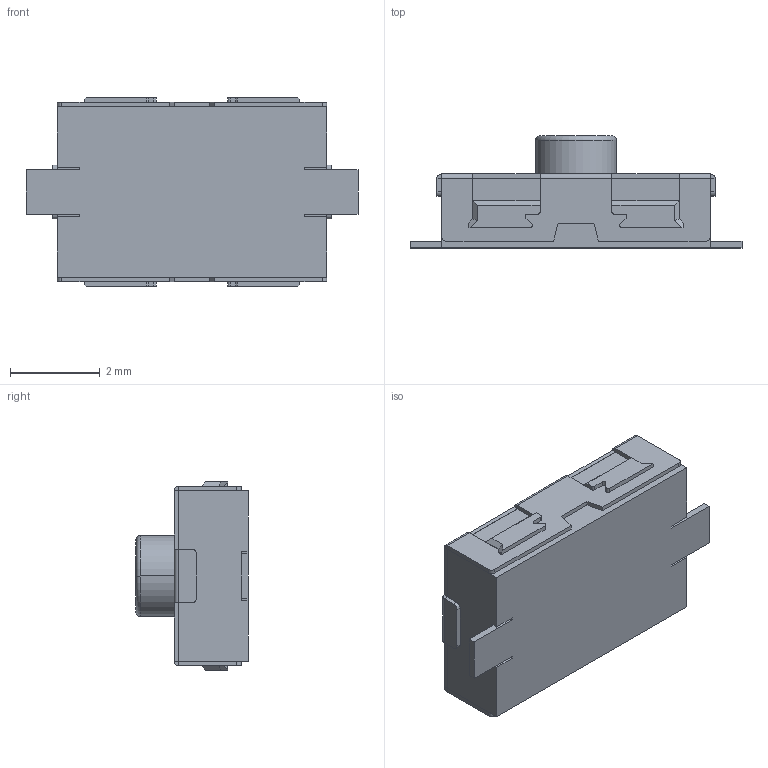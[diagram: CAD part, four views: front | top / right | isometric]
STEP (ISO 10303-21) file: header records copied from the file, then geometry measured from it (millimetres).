
FILE_DESCRIPTION((''),'2;1');
FILE_NAME('JQA3860PV-C0254-BG-1-105_ASM','2026-05-22T11:26:53',('Admin'),(''),'CREO PARAMETRIC BY PTC INC, 2019224','CREO PARAMETRIC BY PTC INC, 2019224','');
FILE_SCHEMA(('AUTOMOTIVE_DESIGN { 1 0 10303 214 1 1 1 1 }'));
Length unit declared in the file: millimetre
Products named in the file (3): JQA3860PV-C0254-BG-1-105_01; JQA3860PV-C0254-BG-1-105_02; JQA3860PV-C0254-BG-1-105_ASM
Assembly tree (2 placements, depth 2):
  JQA3860PV-C0254-BG-1-105_ASM
    JQA3860PV-C0254-BG-1-105_01
    JQA3860PV-C0254-BG-1-105_02
Bounding box: 7.4 x 2.5 x 4.2 mm (x, y, z)
Volume: 41.7 mm3; surface area: 156.5 mm2
Topology: 2 solids, 2 shells, 203 faces, 530 edges, 330 vertices
Faces by surface type: plane 157, cylinder 44, torus 2
Entity records: 7198 total; most frequent: CARTESIAN_POINT 1077, ORIENTED_EDGE 1056, DIRECTION 1050, EDGE_CURVE 528, VECTOR 438, LINE 438, VERTEX_POINT 326, AXIS2_PLACEMENT_3D 306
